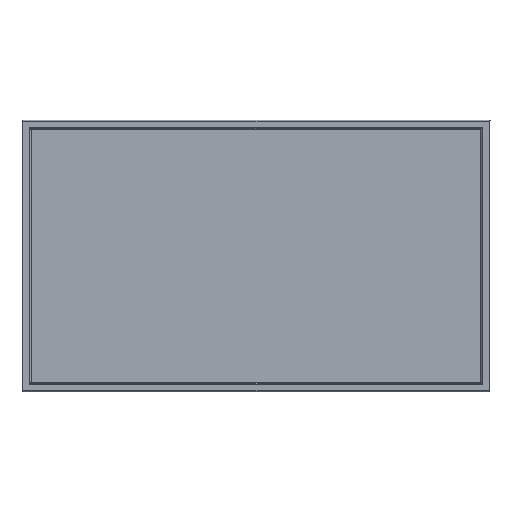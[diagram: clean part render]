
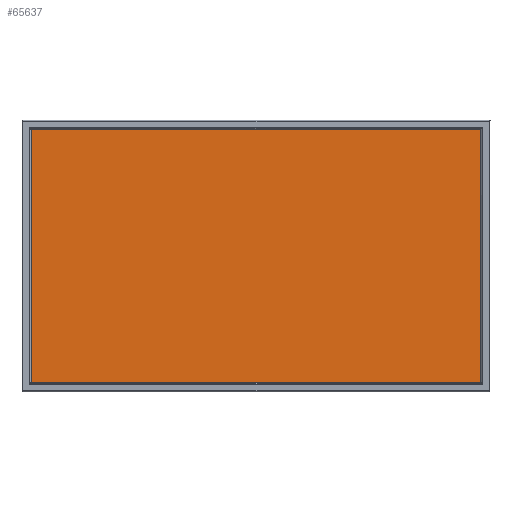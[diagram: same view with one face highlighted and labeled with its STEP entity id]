
A CAD part, front view. The second image highlights one B-rep face of the part: STEP entity #65637.
In plain terms, the highlighted planar face has unit normal (0, -1, 0).
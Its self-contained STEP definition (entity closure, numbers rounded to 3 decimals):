
#7000=FACE_OUTER_BOUND('',#10572,.T.);
#10572=EDGE_LOOP('',(#44688,#44689,#44690,#44691));
#15900=LINE('',#96102,#22276);
#15901=LINE('',#96105,#22277);
#15904=LINE('',#96111,#22280);
#15905=LINE('',#96112,#22281);
#22276=VECTOR('',#76096,1039.68);
#22277=VECTOR('',#76099,584.82);
#22280=VECTOR('',#76104,584.82);
#22281=VECTOR('',#76105,1039.68);
#28642=VERTEX_POINT('',#96096);
#28644=VERTEX_POINT('',#96100);
#28645=VERTEX_POINT('',#96104);
#28647=VERTEX_POINT('',#96110);
#35102=EDGE_CURVE('',#28642,#28644,#15900,.T.);
#35103=EDGE_CURVE('',#28642,#28645,#15901,.T.);
#35106=EDGE_CURVE('',#28644,#28647,#15904,.T.);
#35107=EDGE_CURVE('',#28645,#28647,#15905,.T.);
#44688=ORIENTED_EDGE('',*,*,#35102,.T.);
#44689=ORIENTED_EDGE('',*,*,#35106,.T.);
#44690=ORIENTED_EDGE('',*,*,#35107,.F.);
#44691=ORIENTED_EDGE('',*,*,#35103,.F.);
#63759=PLANE('',#69244);
#65637=ADVANCED_FACE('',(#7000),#63759,.T.);
#69244=AXIS2_PLACEMENT_3D('',#96109,#76102,#76103);
#76096=DIRECTION('',(1.,0.,0.));
#76099=DIRECTION('',(0.,0.,1.));
#76102=DIRECTION('center_axis',(0.,-1.,0.));
#76103=DIRECTION('ref_axis',(-1.,0.,0.));
#76104=DIRECTION('',(0.,0.,1.));
#76105=DIRECTION('',(1.,0.,0.));
#96096=CARTESIAN_POINT('',(122.81,-58.7,80.09));
#96100=CARTESIAN_POINT('',(1162.49,-58.7,80.09));
#96102=CARTESIAN_POINT('',(122.81,-58.7,80.09));
#96104=CARTESIAN_POINT('',(122.81,-58.7,664.91));
#96105=CARTESIAN_POINT('',(122.81,-58.7,80.09));
#96109=CARTESIAN_POINT('Origin',(122.81,-58.7,80.09));
#96110=CARTESIAN_POINT('',(1162.49,-58.7,664.91));
#96111=CARTESIAN_POINT('',(1162.49,-58.7,80.09));
#96112=CARTESIAN_POINT('',(122.81,-58.7,664.91));
